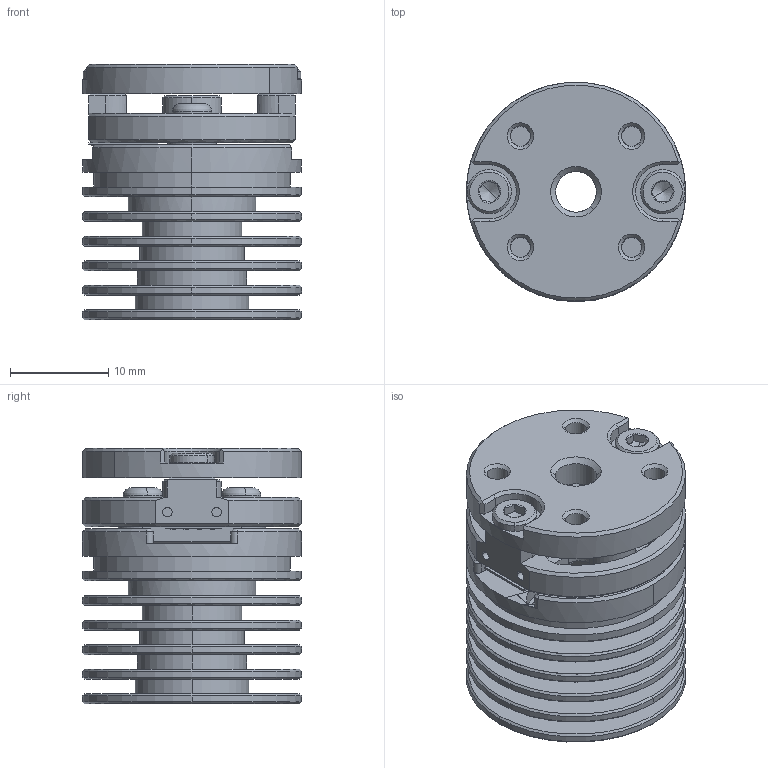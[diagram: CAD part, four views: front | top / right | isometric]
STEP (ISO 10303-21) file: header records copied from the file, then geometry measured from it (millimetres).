
FILE_DESCRIPTION(/* description */ (''),/* implementation_level */ '2;1');
FILE_NAME(/* name */ '热端-一体',/* time_stamp */ '2025-05-28T15:05:22+08:00',/* author */ (''),/* organization */ (''),/* preprocessor_version */ 'ST-DEVELOPER v19.2',/* originating_system */ 'Rhino 8.9',/* authorisation */ '');
FILE_SCHEMA (('CONFIG_CONTROL_DESIGN'));
Length unit declared in the file: millimetre
Products named in the file (1): Document
Bounding box: 22.3 x 22.3 x 26 mm (x, y, z)
Surface area: 7511.8 mm2 (no closed solid volume)
Topology: 0 solids, 0 shells, 424 faces, 2127 edges, 2119 vertices
Faces by surface type: bspline 424
Entity records: 37414 total; most frequent: CARTESIAN_POINT 20208, B_SPLINE_CURVE_WITH_KNOTS 2887, COMPOSITE_CURVE_SEGMENT 2120, PCURVE 2120, DEFINITIONAL_REPRESENTATION 2120, SURFACE_CURVE 2120, DIRECTION 1882, AXIS2_PLACEMENT_3D 941
